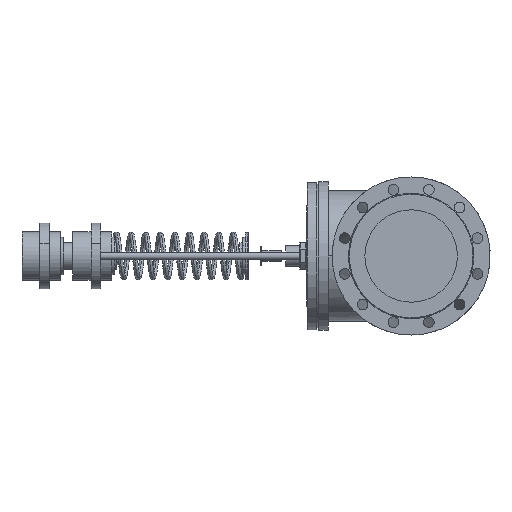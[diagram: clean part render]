
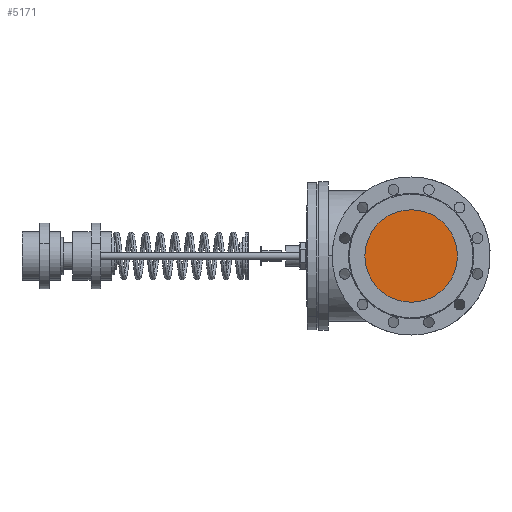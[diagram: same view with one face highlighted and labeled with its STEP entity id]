
A CAD part, left-side view. The second image highlights one B-rep face of the part: STEP entity #5171.
In plain terms, the highlighted planar face has unit normal (-1, 0, 0).
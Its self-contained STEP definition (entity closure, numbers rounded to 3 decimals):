
#752 = DIRECTION ( 'NONE',  ( 0., 0., -1. ) ) ;
#867 = AXIS2_PLACEMENT_3D ( 'NONE', #1545, #8517, #752 ) ;
#1052 = DIRECTION ( 'NONE',  ( 0., 1., 0. ) ) ;
#1545 = CARTESIAN_POINT ( 'NONE',  ( -12.803, -120.473, -1.511 ) ) ;
#1557 = VERTEX_POINT ( 'NONE', #2609 ) ;
#1629 = ORIENTED_EDGE ( 'NONE', *, *, #1709, .F. ) ;
#1709 = EDGE_CURVE ( 'NONE', #6045, #1557, #7166, .T. ) ;
#2609 = CARTESIAN_POINT ( 'NONE',  ( -12.807, -20.973, -1.511 ) ) ;
#3734 = CARTESIAN_POINT ( 'NONE',  ( -12.803, -120.473, -1.511 ) ) ;
#4672 = DIRECTION ( 'NONE',  ( 1., 0., 0. ) ) ;
#4791 = EDGE_CURVE ( 'NONE', #1557, #6045, #10613, .T. ) ;
#5171 = ADVANCED_FACE ( 'NONE', ( #5918 ), #9365, .F. ) ;
#5296 = ORIENTED_EDGE ( 'NONE', *, *, #4791, .F. ) ;
#5918 = FACE_OUTER_BOUND ( 'NONE', #6855, .T. ) ;
#6045 = VERTEX_POINT ( 'NONE', #9848 ) ;
#6855 = EDGE_LOOP ( 'NONE', ( #1629, #5296 ) ) ;
#7166 = CIRCLE ( 'NONE', #10776, 99.5 ) ;
#8517 = DIRECTION ( 'NONE',  ( 1., 0., 0. ) ) ;
#9081 = DIRECTION ( 'NONE',  ( 0., 1., 0. ) ) ;
#9185 = AXIS2_PLACEMENT_3D ( 'NONE', #10657, #4672, #9081 ) ;
#9365 = PLANE ( 'NONE',  #867 ) ;
#9848 = CARTESIAN_POINT ( 'NONE',  ( -12.8, -219.973, -1.511 ) ) ;
#10613 = CIRCLE ( 'NONE', #9185, 99.5 ) ;
#10616 = DIRECTION ( 'NONE',  ( 1., 0., 0. ) ) ;
#10657 = CARTESIAN_POINT ( 'NONE',  ( -12.803, -120.473, -1.511 ) ) ;
#10776 = AXIS2_PLACEMENT_3D ( 'NONE', #3734, #10616, #1052 ) ;
